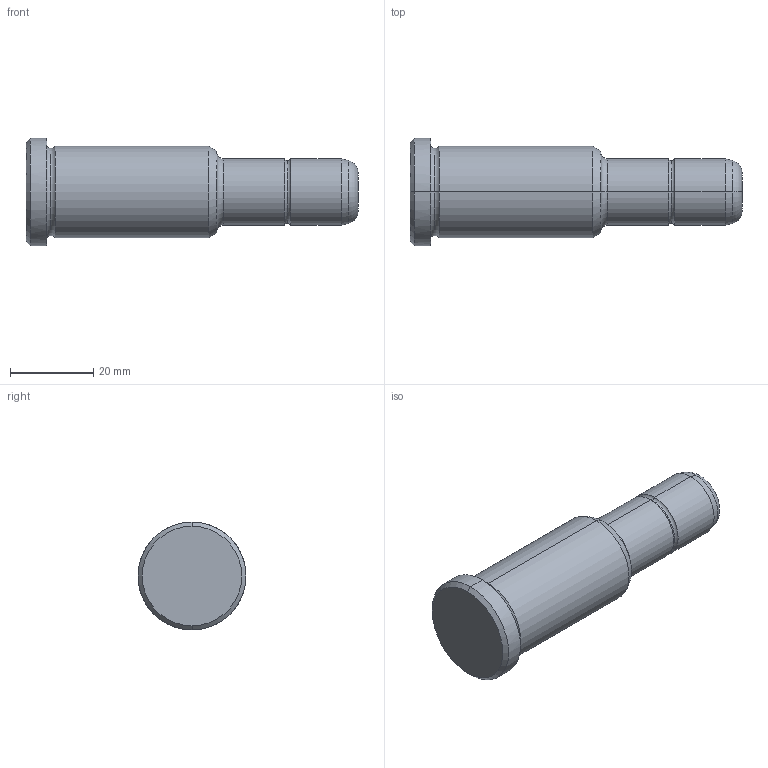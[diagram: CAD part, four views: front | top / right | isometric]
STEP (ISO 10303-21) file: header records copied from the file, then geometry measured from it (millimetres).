
FILE_DESCRIPTION(('CATIA V5 STEP Exchange'),'2;1');
FILE_NAME('C:\Users\Utente\Desktop\IO LAVORO\3D X SITO CF\X SITO\PLASTICA\351\351-16X46X80.stp','2021-08-18T11:24:52+00:00',('none'),('none'),'CATIA Version 5 Release 20 GA (IN-10)','CATIA V5 STEP AP203','none');
FILE_SCHEMA(('CONFIG_CONTROL_DESIGN'));
Length unit declared in the file: millimetre
Products named in the file (1): 351-16X46X80
Bounding box: 80 x 26 x 26 mm (x, y, z)
Volume: 24764.6 mm3; surface area: 5816.2 mm2
Topology: 1 solids, 1 shells, 30 faces, 86 edges, 60 vertices
Faces by surface type: torus 12, cylinder 8, cone 6, plane 4
Entity records: 1112 total; most frequent: CARTESIAN_POINT 289, ORIENTED_EDGE 172, DIRECTION 138, AXIS2_PLACEMENT_3D 95, EDGE_CURVE 86, CIRCLE 64, VERTEX_POINT 60, EDGE_LOOP 32
